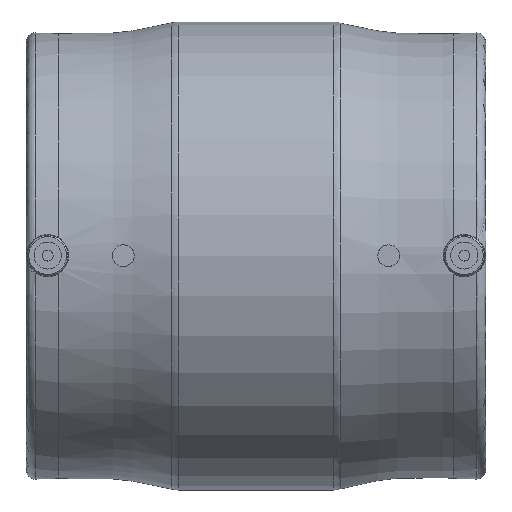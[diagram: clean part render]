
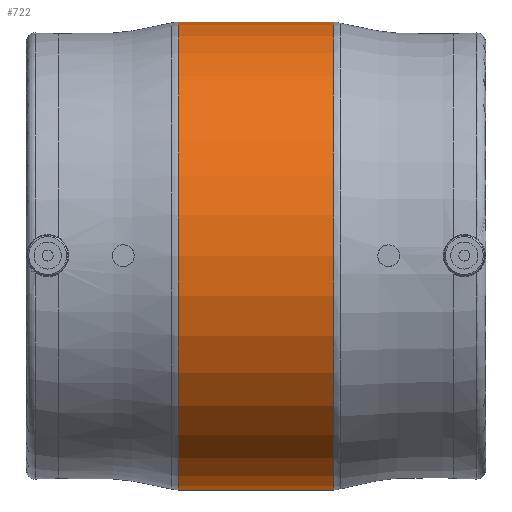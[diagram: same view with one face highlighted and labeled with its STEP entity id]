
A CAD part, top view. The second image highlights one B-rep face of the part: STEP entity #722.
In plain terms, the highlighted cylindrical face has radius 86.5 mm (diameter 173 mm), a full revolution.
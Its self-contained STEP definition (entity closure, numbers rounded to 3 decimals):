
#49=CYLINDRICAL_SURFACE('',#810,86.5);
#236=ORIENTED_EDGE('',*,*,#376,.T.);
#237=ORIENTED_EDGE('',*,*,#377,.T.);
#376=EDGE_CURVE('',#452,#452,#498,.F.);
#377=EDGE_CURVE('',#453,#453,#499,.T.);
#452=VERTEX_POINT('',#1300);
#453=VERTEX_POINT('',#1302);
#498=CIRCLE('',#811,86.5);
#499=CIRCLE('',#812,86.5);
#553=EDGE_LOOP('',(#236));
#554=EDGE_LOOP('',(#237));
#631=FACE_BOUND('',#553,.T.);
#632=FACE_BOUND('',#554,.T.);
#722=ADVANCED_FACE('',(#631,#632),#49,.T.);
#810=AXIS2_PLACEMENT_3D('',#1298,#980,#981);
#811=AXIS2_PLACEMENT_3D('',#1299,#982,#983);
#812=AXIS2_PLACEMENT_3D('',#1301,#984,#985);
#980=DIRECTION('',(-1.,0.,0.));
#981=DIRECTION('',(0.,0.,1.));
#982=DIRECTION('',(1.,0.,0.));
#983=DIRECTION('',(0.,0.,-1.));
#984=DIRECTION('',(1.,0.,0.));
#985=DIRECTION('',(0.,0.,-1.));
#1298=CARTESIAN_POINT('',(-60.,0.,0.));
#1299=CARTESIAN_POINT('',(28.651,0.,0.));
#1300=CARTESIAN_POINT('',(28.651,0.,-86.5));
#1301=CARTESIAN_POINT('',(-28.651,0.,0.));
#1302=CARTESIAN_POINT('',(-28.651,0.,-86.5));
